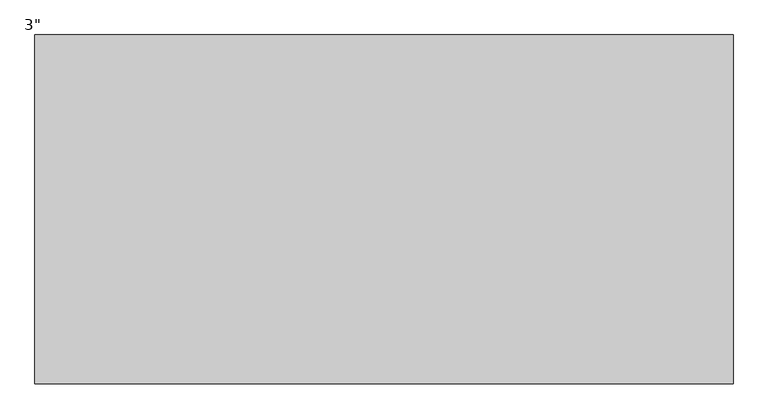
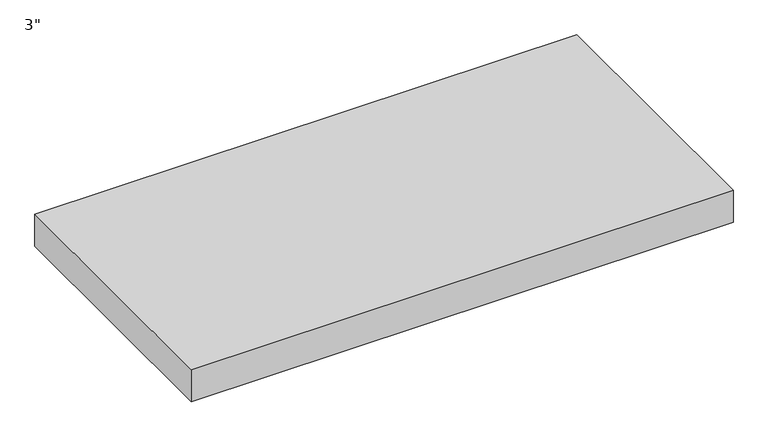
"""IFC4 building model written with IfcOpenShell, lengths in millimetres: proxy geometry."""

import ifcopenshell
import ifcopenshell.guid

model = None  # the IFC model being written
_history = None  # IfcOwnerHistory: only IFC2X3 demands one
_inside = {}  # id of a spatial element -> (the spatial element, [elements in it])
_under = {}  # id of a project, library or spatial element -> (it, [spatial elements below it])
_declared = {}  # id of a project -> (the project, [libraries it declares])
_typed = {}  # id of a type object -> (the type object, [elements of that type])
_made_of = {}  # id of a material, layer set ... -> (it, [elements and type objects made of it])


def new_model(schema):
    """Start an empty IFC model of exactly this schema.

    Asked for "IFC4X3", IfcOpenShell would pick the latest addendum, in which some entities
    have other attributes; the version numbers below select the first issue.
    IFC2X3 requires an IfcOwnerHistory on every rooted entity: one is made here for all.
    """
    global model, _history
    if schema == "IFC4X3":
        model = ifcopenshell.file(schema_version=(4, 3, 0, 0))
    else:
        model = ifcopenshell.file(schema=schema)
    _inside.clear()
    _under.clear()
    _declared.clear()
    _typed.clear()
    _made_of.clear()
    _history = None
    if model.schema == "IFC2X3":
        org = make("IfcOrganization", Name="unknown")
        user = make(
            "IfcPersonAndOrganization",
            ThePerson=make("IfcPerson", FamilyName="unknown"),
            TheOrganization=org,
        )
        app = make(
            "IfcApplication",
            ApplicationDeveloper=org,
            Version="unknown",
            ApplicationFullName="unknown",
            ApplicationIdentifier="unknown",
        )
        _history = make(
            "IfcOwnerHistory",
            OwningUser=user,
            OwningApplication=app,
            ChangeAction="ADDED",
            CreationDate=0,
        )
    return model


def make(cls, **values):
    """One entity of the class cls with the attributes given. An attribute that is None is left unset."""
    return model.create_entity(
        cls, **{name: value for name, value in values.items() if value is not None}
    )


def rooted(cls, **values):
    """An entity with a GlobalId (a new one), such as an element, a storey or a relation."""
    return make(cls, GlobalId=ifcopenshell.guid.new(), OwnerHistory=_history, **values)


def si_unit(unit_type, name, prefix=None):
    """IfcSIUnit, for example si_unit("LENGTHUNIT", "METRE", prefix="MILLI")."""
    return make("IfcSIUnit", UnitType=unit_type, Prefix=prefix, Name=name)


def assignment(units):
    """IfcUnitAssignment: the units of a project."""
    return None if units is None else make("IfcUnitAssignment", Units=units)


def point(xyz):
    """IfcCartesianPoint."""
    return None if xyz is None else make("IfcCartesianPoint", Coordinates=xyz)


def direction(xyz):
    """IfcDirection."""
    return None if xyz is None else make("IfcDirection", DirectionRatios=xyz)


def frame(location, z_axis=None, x_axis=None):
    """IfcAxis2Placement3D, a coordinate frame: its origin and axes. An axis left out is left unset."""
    return make(
        "IfcAxis2Placement3D",
        Location=point(location),
        Axis=direction(z_axis),
        RefDirection=direction(x_axis),
    )


def origin():
    """The frame at (0, 0, 0) with its axes left unset."""
    return frame((0.0, 0.0, 0.0))


def origin_with_axes():
    """The frame at (0, 0, 0) with the z axis (0, 0, 1) and the x axis (1, 0, 0) written out."""
    return frame((0.0, 0.0, 0.0), z_axis=(0.0, 0.0, 1.0), x_axis=(1.0, 0.0, 0.0))


def place(relative_to, where):
    """IfcLocalPlacement: puts the frame where relative to a parent placement (None: the world)."""
    return make(
        "IfcLocalPlacement", PlacementRelTo=relative_to, RelativePlacement=where
    )


def context(
    kind, dimensions, precision=None, world=None, true_north=None, identifier=None
):
    """IfcGeometricRepresentationContext, for example the 3D "Model" context."""
    return make(
        "IfcGeometricRepresentationContext",
        ContextIdentifier=identifier,
        ContextType=kind,
        CoordinateSpaceDimension=dimensions,
        Precision=precision,
        WorldCoordinateSystem=world,
        TrueNorth=true_north,
    )


def project(units=None, contexts=None):
    """IfcProject with its units and contexts."""
    return rooted(
        "IfcProject",
        Name="project",
        RepresentationContexts=contexts,
        UnitsInContext=assignment(units),
    )


def spatial(cls, under=None, at=None, **own):
    """A site, building, storey or space (cls), placed at a placement, below another one or the project."""
    s = rooted(cls, ObjectPlacement=at, **own)
    if under is not None:
        _under.setdefault(under.id(), (under, []))[1].append(s)
    return s


def polyline(points):
    """IfcPolyline through the points."""
    return make("IfcPolyline", Points=[point(p) for p in points])


def outline(outer, holes=None, kind="AREA"):
    """IfcArbitraryClosedProfileDef: a profile drawn as a closed curve; with holes, ...WithVoids."""
    if holes is None:
        return make("IfcArbitraryClosedProfileDef", ProfileType=kind, OuterCurve=outer)
    return make(
        "IfcArbitraryProfileDefWithVoids",
        ProfileType=kind,
        OuterCurve=outer,
        InnerCurves=holes,
    )


def extrude(swept, where, along, depth):
    """IfcExtrudedAreaSolid: the profile swept, set in the frame where, extruded along a direction by depth."""
    return make(
        "IfcExtrudedAreaSolid",
        SweptArea=swept,
        Position=where,
        ExtrudedDirection=direction(along),
        Depth=depth,
    )


def shape(context_of_items, identifier, shape_type, items):
    """IfcShapeRepresentation: the items that make up one representation, for example the "Body"."""
    return make(
        "IfcShapeRepresentation",
        ContextOfItems=context_of_items,
        RepresentationIdentifier=identifier,
        RepresentationType=shape_type,
        Items=items,
    )


def source(mapping_origin, context_of_items, identifier, shape_type, items):
    """IfcRepresentationMap: a shape defined once, which mapped items show again and again."""
    return make(
        "IfcRepresentationMap",
        MappingOrigin=mapping_origin,
        MappedRepresentation=shape(context_of_items, identifier, shape_type, items),
    )


def transform(
    local_origin,
    x_axis=None,
    y_axis=None,
    z_axis=None,
    scale=None,
    scale2=None,
    scale3=None,
    uniform=True,
):
    """IfcCartesianTransformationOperator3D, or its non-uniform kind. x_axis, y_axis, z_axis: its Axis1, 2, 3."""
    if uniform:
        return make(
            "IfcCartesianTransformationOperator3D",
            Axis1=direction(x_axis),
            Axis2=direction(y_axis),
            LocalOrigin=point(local_origin),
            Scale=scale,
            Axis3=direction(z_axis),
        )
    return make(
        "IfcCartesianTransformationOperator3DnonUniform",
        Axis1=direction(x_axis),
        Axis2=direction(y_axis),
        LocalOrigin=point(local_origin),
        Scale=scale,
        Axis3=direction(z_axis),
        Scale2=scale2,
        Scale3=scale3,
    )


def mapped(mapping_source, mapping_target):
    """IfcMappedItem: shows the shape of a source again, moved by a transform."""
    return make(
        "IfcMappedItem", MappingSource=mapping_source, MappingTarget=mapping_target
    )


def made_of(thing, what):
    """Note that an element or type object is made of a material, layer set ...; save() writes the relation."""
    if what is not None:
        _made_of.setdefault(what.id(), (what, []))[1].append(thing)
    return thing


def element(
    cls,
    number,
    at=None,
    inside=None,
    cuts=None,
    type_object=None,
    material=None,
    context=None,
    identifier="Body",
    shape_type=None,
    held_by="IfcProductDefinitionShape",
    body=None,
    shapes=None,
    **own,
):
    """One element of the class cls, such as IfcWall. Its Tag is "e" and its number.

    at: its placement. inside: the storey or other place that contains it. cuts: it is an
    opening in that element (IfcRelVoidsElement). A single representation is given by context,
    identifier, shape_type and body (its items); several are given by shapes. held_by: the class
    of the entity that holds the representations. save() writes the other relations.
    """
    e = rooted(cls, Tag="e%d" % number, ObjectPlacement=at, **own)
    if body is not None:
        shapes = [shape(context, identifier, shape_type, body)]
    if shapes is not None:
        e.Representation = make(held_by, Representations=shapes)
    if inside is not None:
        _inside.setdefault(inside.id(), (inside, []))[1].append(e)
    if cuts is not None:
        rooted(
            "IfcRelVoidsElement", RelatingBuildingElement=cuts, RelatedOpeningElement=e
        )
    if type_object is not None:
        _typed.setdefault(type_object.id(), (type_object, []))[1].append(e)
    return made_of(e, material)


def aggregate(whole, parts):
    """IfcRelAggregates: a whole, such as a stair, and the parts it consists of."""
    return rooted("IfcRelAggregates", RelatingObject=whole, RelatedObjects=parts)


def save(model, path):
    """Write the relations noted so far, then the file.

    IfcRelAggregates (storeys below a building ...), IfcRelContainedInSpatialStructure (elements
    in a storey), IfcRelDefinesByType, IfcRelAssociatesMaterial and IfcRelDeclares: one each for
    every whole, place, type object, material and project.
    """
    for whole, parts in _under.values():
        aggregate(whole, parts)
    for where, things in _inside.values():
        rooted(
            "IfcRelContainedInSpatialStructure",
            RelatedElements=things,
            RelatingStructure=where,
        )
    for kind, things in _typed.values():
        rooted("IfcRelDefinesByType", RelatedObjects=things, RelatingType=kind)
    for what, things in _made_of.values():
        rooted("IfcRelAssociatesMaterial", RelatedObjects=things, RelatingMaterial=what)
    for by, libraries in _declared.values():
        rooted("IfcRelDeclares", RelatingContext=by, RelatedDefinitions=libraries)
    model.write(path)


def proxy_81afb05a(model_context):
    return source(origin(), model_context, "Body", "SweptSolid", [
        extrude(outline(polyline([(-609.6, 304.8), (609.6, 304.8), (609.6, -304.8), (-609.6, -304.8), (-609.6, 304.8)])), origin_with_axes(), (0.0, 0.0, 1.0), 76.2),
    ])


if __name__ == "__main__":
    model = new_model("IFC4")
    model_context = context("Model", 3, world=origin())
    ifc_project = project(units=[si_unit("LENGTHUNIT", "METRE", prefix="MILLI")], contexts=[model_context])
    site = spatial("IfcSite", under=ifc_project)
    building = spatial("IfcBuilding", under=site)
    placement = place(None, origin())
    proxy_shape = proxy_81afb05a(model_context)
    element("IfcBuildingElementProxy", 1, Name="Durabond Generic Model Equalite Insulation Board : 3\"", ObjectType="Durabond Generic Model Equalite Insulation Board : 3\"", at=placement, inside=building, context=model_context, shape_type="MappedRepresentation", body=[
        mapped(proxy_shape, transform((0.0, 0.0, 0.0), x_axis=(1.0, 0.0, 0.0), y_axis=(0.0, 1.0, 0.0), z_axis=(0.0, 0.0, 1.0))),
    ])
    save(model, "model.ifc")
